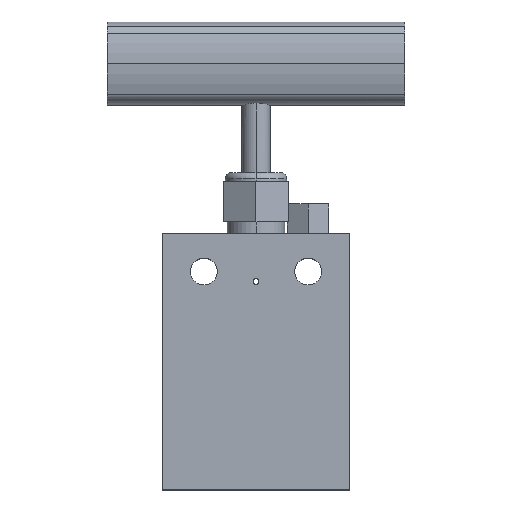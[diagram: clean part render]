
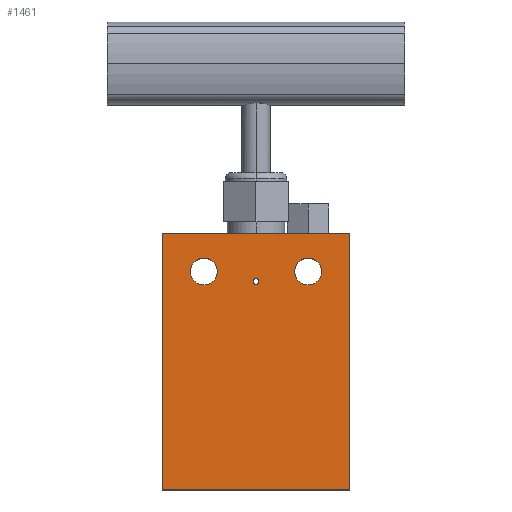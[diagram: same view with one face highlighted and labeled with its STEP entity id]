
A CAD part, top view. The second image highlights one B-rep face of the part: STEP entity #1461.
In plain terms, the highlighted planar face has unit normal (0, 0, 1).
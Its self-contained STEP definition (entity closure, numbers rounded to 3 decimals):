
#36 = EDGE_CURVE ( 'NONE', #1135, #658, #2816, .T. ) ;
#95 = VERTEX_POINT ( 'NONE', #628 ) ;
#102 = DIRECTION ( 'NONE',  ( 0., 0., 1. ) ) ;
#106 = ORIENTED_EDGE ( 'NONE', *, *, #1975, .F. ) ;
#120 = FACE_OUTER_BOUND ( 'NONE', #2130, .T. ) ;
#147 = AXIS2_PLACEMENT_3D ( 'NONE', #1498, #174, #1049 ) ;
#174 = DIRECTION ( 'NONE',  ( 0., 0., 1. ) ) ;
#325 = CIRCLE ( 'NONE', #147, 1. ) ;
#327 = AXIS2_PLACEMENT_3D ( 'NONE', #2624, #530, #2345 ) ;
#339 = EDGE_CURVE ( 'NONE', #2716, #1643, #1113, .T. ) ;
#353 = VERTEX_POINT ( 'NONE', #2288 ) ;
#378 = EDGE_CURVE ( 'NONE', #1643, #2716, #2098, .T. ) ;
#381 = VECTOR ( 'NONE', #1599, 1000. ) ;
#444 = DIRECTION ( 'NONE',  ( 0., 0., 1. ) ) ;
#445 = CARTESIAN_POINT ( 'NONE',  ( -31.5, -43., 12.5 ) ) ;
#530 = DIRECTION ( 'NONE',  ( 0., 0., 1. ) ) ;
#578 = VERTEX_POINT ( 'NONE', #2308 ) ;
#628 = CARTESIAN_POINT ( 'NONE',  ( -13., 30.3, 12.5 ) ) ;
#658 = VERTEX_POINT ( 'NONE', #2500 ) ;
#685 = ORIENTED_EDGE ( 'NONE', *, *, #1356, .F. ) ;
#700 = CARTESIAN_POINT ( 'NONE',  ( -17.5, 30.3, 12.5 ) ) ;
#715 = ORIENTED_EDGE ( 'NONE', *, *, #944, .T. ) ;
#749 = PLANE ( 'NONE',  #2472 ) ;
#764 = DIRECTION ( 'NONE',  ( 1., 0., 0. ) ) ;
#944 = EDGE_CURVE ( 'NONE', #658, #1770, #1404, .T. ) ;
#951 = ORIENTED_EDGE ( 'NONE', *, *, #2509, .T. ) ;
#982 = DIRECTION ( 'NONE',  ( -1., 0., 0. ) ) ;
#1049 = DIRECTION ( 'NONE',  ( 1., 0., 0. ) ) ;
#1092 = EDGE_LOOP ( 'NONE', ( #1798, #1921 ) ) ;
#1103 = CARTESIAN_POINT ( 'NONE',  ( 13., 30.3, 12.5 ) ) ;
#1113 = CIRCLE ( 'NONE', #327, 4.5 ) ;
#1135 = VERTEX_POINT ( 'NONE', #1669 ) ;
#1176 = DIRECTION ( 'NONE',  ( 0., 0., 1. ) ) ;
#1238 = AXIS2_PLACEMENT_3D ( 'NONE', #2433, #444, #2634 ) ;
#1250 = CARTESIAN_POINT ( 'NONE',  ( -31.5, 43., 12.5 ) ) ;
#1259 = VECTOR ( 'NONE', #1272, 1000. ) ;
#1261 = AXIS2_PLACEMENT_3D ( 'NONE', #2315, #102, #982 ) ;
#1268 = EDGE_CURVE ( 'NONE', #2326, #2789, #325, .T. ) ;
#1272 = DIRECTION ( 'NONE',  ( 0., 1., 0. ) ) ;
#1282 = CARTESIAN_POINT ( 'NONE',  ( -1., 27., 12.5 ) ) ;
#1356 = EDGE_CURVE ( 'NONE', #353, #95, #1679, .T. ) ;
#1404 = LINE ( 'NONE', #1639, #381 ) ;
#1426 = AXIS2_PLACEMENT_3D ( 'NONE', #2614, #2387, #1497 ) ;
#1461 = ADVANCED_FACE ( 'NONE', ( #2086, #2579, #1868, #120 ), #749, .T. ) ;
#1497 = DIRECTION ( 'NONE',  ( 1., 0., 0. ) ) ;
#1498 = CARTESIAN_POINT ( 'NONE',  ( 0., 27., 12.5 ) ) ;
#1525 = DIRECTION ( 'NONE',  ( 0., -1., 0. ) ) ;
#1550 = LINE ( 'NONE', #445, #2225 ) ;
#1566 = EDGE_LOOP ( 'NONE', ( #106, #685 ) ) ;
#1599 = DIRECTION ( 'NONE',  ( -1., 0., 0. ) ) ;
#1639 = CARTESIAN_POINT ( 'NONE',  ( -31.5, 43., 12.5 ) ) ;
#1643 = VERTEX_POINT ( 'NONE', #1103 ) ;
#1651 = CARTESIAN_POINT ( 'NONE',  ( 1., 27., 12.5 ) ) ;
#1669 = CARTESIAN_POINT ( 'NONE',  ( 31.5, -43., 12.5 ) ) ;
#1679 = CIRCLE ( 'NONE', #2055, 4.5 ) ;
#1714 = EDGE_CURVE ( 'NONE', #578, #1135, #1550, .T. ) ;
#1770 = VERTEX_POINT ( 'NONE', #1250 ) ;
#1798 = ORIENTED_EDGE ( 'NONE', *, *, #1268, .F. ) ;
#1868 = FACE_BOUND ( 'NONE', #2748, .T. ) ;
#1897 = CIRCLE ( 'NONE', #1238, 4.5 ) ;
#1920 = DIRECTION ( 'NONE',  ( 0., 0., 1. ) ) ;
#1921 = ORIENTED_EDGE ( 'NONE', *, *, #2396, .F. ) ;
#1975 = EDGE_CURVE ( 'NONE', #95, #353, #1897, .T. ) ;
#2055 = AXIS2_PLACEMENT_3D ( 'NONE', #700, #1176, #2526 ) ;
#2086 = FACE_BOUND ( 'NONE', #1092, .T. ) ;
#2098 = CIRCLE ( 'NONE', #1261, 4.5 ) ;
#2112 = ORIENTED_EDGE ( 'NONE', *, *, #36, .T. ) ;
#2130 = EDGE_LOOP ( 'NONE', ( #951, #2760, #2112, #715 ) ) ;
#2186 = CIRCLE ( 'NONE', #1426, 1. ) ;
#2225 = VECTOR ( 'NONE', #2651, 1000. ) ;
#2261 = ORIENTED_EDGE ( 'NONE', *, *, #339, .F. ) ;
#2288 = CARTESIAN_POINT ( 'NONE',  ( -22., 30.3, 12.5 ) ) ;
#2308 = CARTESIAN_POINT ( 'NONE',  ( -31.5, -43., 12.5 ) ) ;
#2315 = CARTESIAN_POINT ( 'NONE',  ( 17.5, 30.3, 12.5 ) ) ;
#2326 = VERTEX_POINT ( 'NONE', #1651 ) ;
#2345 = DIRECTION ( 'NONE',  ( -1., 0., 0. ) ) ;
#2387 = DIRECTION ( 'NONE',  ( 0., 0., 1. ) ) ;
#2396 = EDGE_CURVE ( 'NONE', #2789, #2326, #2186, .T. ) ;
#2415 = CARTESIAN_POINT ( 'NONE',  ( -31.5, 43., 12.5 ) ) ;
#2433 = CARTESIAN_POINT ( 'NONE',  ( -17.5, 30.3, 12.5 ) ) ;
#2459 = VECTOR ( 'NONE', #1525, 1000. ) ;
#2467 = ORIENTED_EDGE ( 'NONE', *, *, #378, .F. ) ;
#2472 = AXIS2_PLACEMENT_3D ( 'NONE', #2766, #1920, #764 ) ;
#2500 = CARTESIAN_POINT ( 'NONE',  ( 31.5, 43., 12.5 ) ) ;
#2509 = EDGE_CURVE ( 'NONE', #1770, #578, #2630, .T. ) ;
#2526 = DIRECTION ( 'NONE',  ( 1., 0., 0. ) ) ;
#2579 = FACE_BOUND ( 'NONE', #1566, .T. ) ;
#2614 = CARTESIAN_POINT ( 'NONE',  ( 0., 27., 12.5 ) ) ;
#2624 = CARTESIAN_POINT ( 'NONE',  ( 17.5, 30.3, 12.5 ) ) ;
#2630 = LINE ( 'NONE', #2415, #2459 ) ;
#2634 = DIRECTION ( 'NONE',  ( 1., 0., 0. ) ) ;
#2651 = DIRECTION ( 'NONE',  ( 1., 0., 0. ) ) ;
#2716 = VERTEX_POINT ( 'NONE', #2781 ) ;
#2748 = EDGE_LOOP ( 'NONE', ( #2261, #2467 ) ) ;
#2760 = ORIENTED_EDGE ( 'NONE', *, *, #1714, .T. ) ;
#2766 = CARTESIAN_POINT ( 'NONE',  ( 0., 0., 12.5 ) ) ;
#2781 = CARTESIAN_POINT ( 'NONE',  ( 22., 30.3, 12.5 ) ) ;
#2789 = VERTEX_POINT ( 'NONE', #1282 ) ;
#2816 = LINE ( 'NONE', #2847, #1259 ) ;
#2847 = CARTESIAN_POINT ( 'NONE',  ( 31.5, 43., 12.5 ) ) ;
